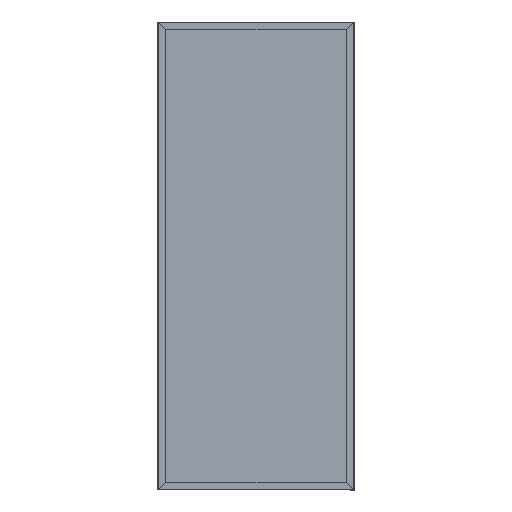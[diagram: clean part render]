
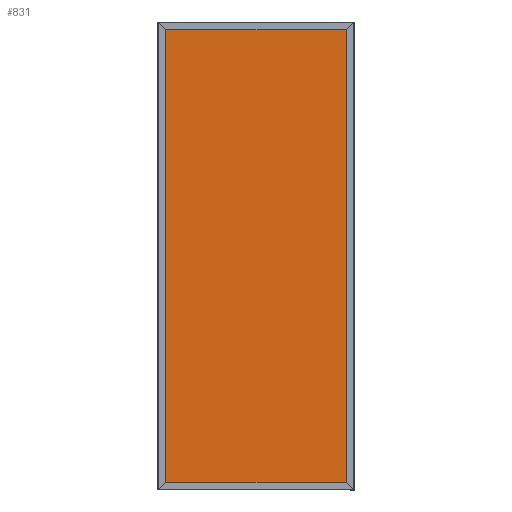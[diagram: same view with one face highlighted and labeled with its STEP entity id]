
A CAD part, top view. The second image highlights one B-rep face of the part: STEP entity #831.
In plain terms, the highlighted planar face has unit normal (0, 0, 1).
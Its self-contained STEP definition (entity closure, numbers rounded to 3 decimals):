
#831 = ADVANCED_FACE ( 'NONE', ( #18492 ), #3704, .F. ) ;
#1372 = DIRECTION ( 'NONE',  ( 0., 0., -1. ) ) ;
#2625 = LINE ( 'NONE', #15496, #5667 ) ;
#3704 = PLANE ( 'NONE',  #8154 ) ;
#4537 = EDGE_CURVE ( 'NONE', #25430, #14093, #22195, .T. ) ;
#5667 = VECTOR ( 'NONE', #6886, 1000. ) ;
#6886 = DIRECTION ( 'NONE',  ( -1., 0., 0. ) ) ;
#8081 = EDGE_LOOP ( 'NONE', ( #9867, #17216, #17575, #14427 ) ) ;
#8154 = AXIS2_PLACEMENT_3D ( 'NONE', #18348, #1372, #22312 ) ;
#9867 = ORIENTED_EDGE ( 'NONE', *, *, #4537, .F. ) ;
#10129 = DIRECTION ( 'NONE',  ( 0., 1., 0. ) ) ;
#10455 = VERTEX_POINT ( 'NONE', #14902 ) ;
#12978 = LINE ( 'NONE', #21321, #20596 ) ;
#13519 = EDGE_CURVE ( 'NONE', #10455, #14093, #12978, .T. ) ;
#14093 = VERTEX_POINT ( 'NONE', #22764 ) ;
#14427 = ORIENTED_EDGE ( 'NONE', *, *, #13519, .T. ) ;
#14607 = VECTOR ( 'NONE', #17676, 1000. ) ;
#14902 = CARTESIAN_POINT ( 'NONE',  ( 465.07, 1162.2, -13.25 ) ) ;
#15153 = DIRECTION ( 'NONE',  ( -1., 0., 0. ) ) ;
#15496 = CARTESIAN_POINT ( 'NONE',  ( 0., -1162.2, -13.25 ) ) ;
#16839 = CARTESIAN_POINT ( 'NONE',  ( -465.07, -1162.2, -13.25 ) ) ;
#17216 = ORIENTED_EDGE ( 'NONE', *, *, #23203, .F. ) ;
#17575 = ORIENTED_EDGE ( 'NONE', *, *, #25709, .T. ) ;
#17676 = DIRECTION ( 'NONE',  ( 0., 1., 0. ) ) ;
#18348 = CARTESIAN_POINT ( 'NONE',  ( 0., 0., -13.25 ) ) ;
#18492 = FACE_OUTER_BOUND ( 'NONE', #8081, .T. ) ;
#18529 = CARTESIAN_POINT ( 'NONE',  ( 465.07, -1162.2, -13.25 ) ) ;
#20187 = VECTOR ( 'NONE', #10129, 1000. ) ;
#20596 = VECTOR ( 'NONE', #15153, 1000. ) ;
#21321 = CARTESIAN_POINT ( 'NONE',  ( 0., 1162.2, -13.25 ) ) ;
#22027 = LINE ( 'NONE', #26817, #20187 ) ;
#22195 = LINE ( 'NONE', #26166, #14607 ) ;
#22312 = DIRECTION ( 'NONE',  ( -1., 0., 0. ) ) ;
#22764 = CARTESIAN_POINT ( 'NONE',  ( -465.07, 1162.2, -13.25 ) ) ;
#23203 = EDGE_CURVE ( 'NONE', #24925, #25430, #2625, .T. ) ;
#24925 = VERTEX_POINT ( 'NONE', #18529 ) ;
#25430 = VERTEX_POINT ( 'NONE', #16839 ) ;
#25709 = EDGE_CURVE ( 'NONE', #24925, #10455, #22027, .T. ) ;
#26166 = CARTESIAN_POINT ( 'NONE',  ( -465.07, 0., -13.25 ) ) ;
#26817 = CARTESIAN_POINT ( 'NONE',  ( 465.07, 0., -13.25 ) ) ;
